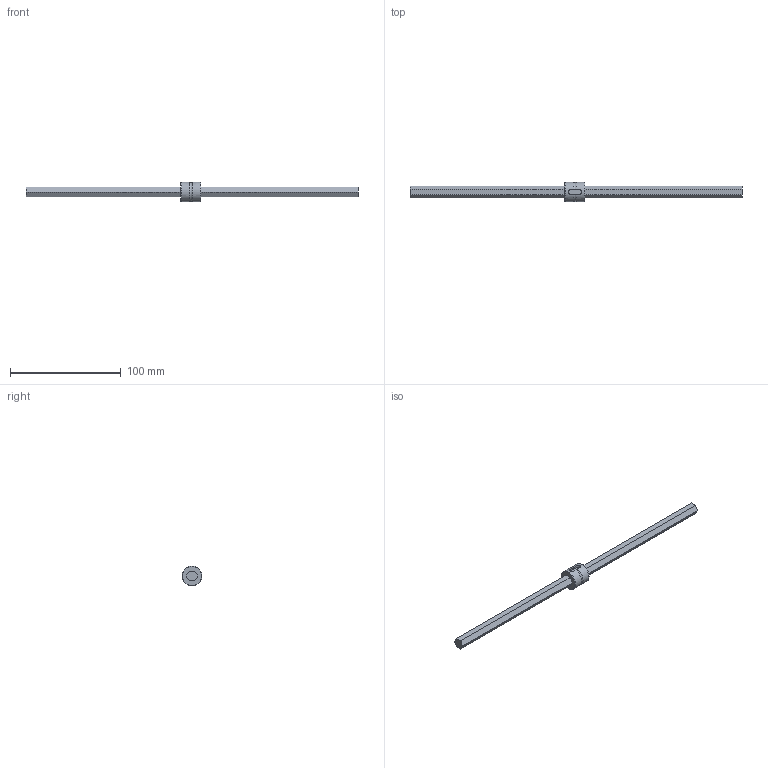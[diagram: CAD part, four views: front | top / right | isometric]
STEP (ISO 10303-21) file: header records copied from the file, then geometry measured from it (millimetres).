
FILE_DESCRIPTION((''),'2;1');
FILE_NAME('D:\製品 (図面)\カタログ用3D\ネジ関連\STEP形式\HTS\HTS9.stp','2010-06-01T16:49:27',('Tsuchiya'),(''),'Autodesk Inventor 10','Autodesk Inventor 10','');
FILE_SCHEMA(('AUTOMOTIVE_DESIGN { 1 0 10303 214 1 1 1 1 }'));
Length unit declared in the file: millimetre
Products named in the file (3): HTS9; HTS91; HTS92
Assembly tree (2 placements, depth 2):
  HTS9
    HTS91
    HTS92
Bounding box: 300 x 18 x 18 mm (x, y, z)
Volume: 24182.1 mm3; surface area: 11543.3 mm2
Topology: 2 solids, 2 shells, 36 faces, 89 edges, 59 vertices
Faces by surface type: plane 27, cylinder 6, torus 2, bspline 1
Full cylindrical faces by diameter (mm): 1 x1, 11 x1, 18 x2
Entity records: 1383 total; most frequent: CARTESIAN_POINT 484, DIRECTION 164, ORIENTED_EDGE 164, EDGE_CURVE 82, VECTOR 64, LINE 64, VERTEX_POINT 58, AXIS2_PLACEMENT_3D 50
